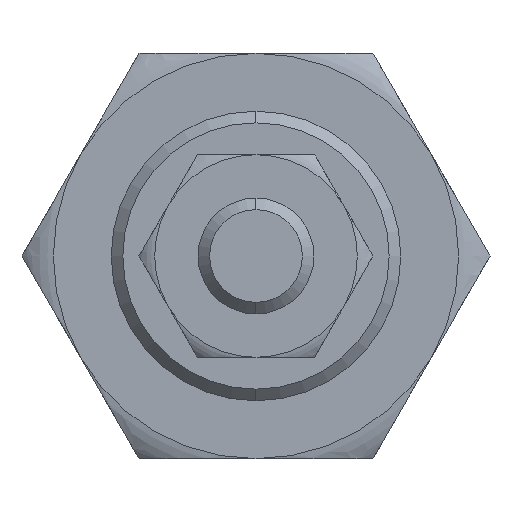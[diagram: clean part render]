
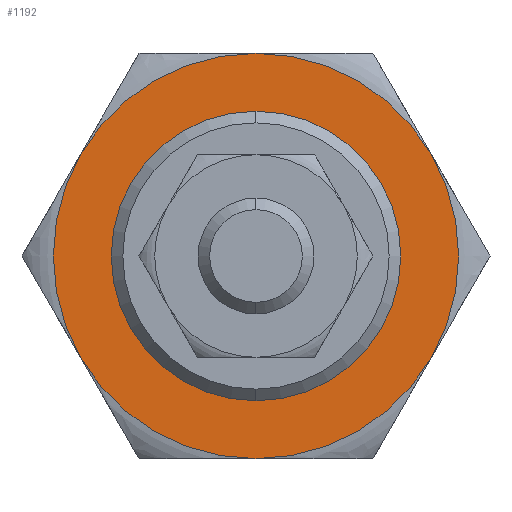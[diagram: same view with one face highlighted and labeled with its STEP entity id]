
A CAD part, left-side view. The second image highlights one B-rep face of the part: STEP entity #1192.
In plain terms, the highlighted planar face has unit normal (-1, 0, 0).
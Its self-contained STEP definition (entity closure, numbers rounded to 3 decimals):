
#92 = CARTESIAN_POINT ( 'NONE',  ( -1.5, 0., 0. ) ) ;
#181 = CARTESIAN_POINT ( 'NONE',  ( -1.5, 0., 7. ) ) ;
#242 = ORIENTED_EDGE ( 'NONE', *, *, #2537, .F. ) ;
#265 = DIRECTION ( 'NONE',  ( 0., 0., -1. ) ) ;
#295 = ORIENTED_EDGE ( 'NONE', *, *, #2417, .F. ) ;
#331 = CIRCLE ( 'NONE', #2294, 7. ) ;
#377 = DIRECTION ( 'NONE',  ( 0., 0., -1. ) ) ;
#445 = DIRECTION ( 'NONE',  ( 0., 0., -1. ) ) ;
#501 = ORIENTED_EDGE ( 'NONE', *, *, #3009, .T. ) ;
#509 = EDGE_CURVE ( 'NONE', #2452, #2609, #1855, .T. ) ;
#517 = AXIS2_PLACEMENT_3D ( 'NONE', #2402, #2061, #265 ) ;
#639 = FACE_BOUND ( 'NONE', #2998, .T. ) ;
#649 = CARTESIAN_POINT ( 'NONE',  ( -1.5, -6.062, 3.5 ) ) ;
#725 = CARTESIAN_POINT ( 'NONE',  ( -1.5, 0., -4.5 ) ) ;
#760 = ORIENTED_EDGE ( 'NONE', *, *, #2145, .T. ) ;
#811 = DIRECTION ( 'NONE',  ( 1., 0., 0. ) ) ;
#826 = VERTEX_POINT ( 'NONE', #725 ) ;
#852 = PLANE ( 'NONE',  #2925 ) ;
#989 = CIRCLE ( 'NONE', #1261, 7. ) ;
#998 = CIRCLE ( 'NONE', #1882, 4.5 ) ;
#1044 = DIRECTION ( 'NONE',  ( 1., 0., 0. ) ) ;
#1082 = CARTESIAN_POINT ( 'NONE',  ( -1.5, 0., 0. ) ) ;
#1087 = DIRECTION ( 'NONE',  ( 0., 0., -1. ) ) ;
#1149 = EDGE_CURVE ( 'NONE', #2609, #2374, #331, .T. ) ;
#1192 = ADVANCED_FACE ( 'NONE', ( #639, #2146 ), #852, .F. ) ;
#1199 = ORIENTED_EDGE ( 'NONE', *, *, #509, .F. ) ;
#1230 = CIRCLE ( 'NONE', #1585, 7. ) ;
#1234 = CARTESIAN_POINT ( 'NONE',  ( -1.5, 0., 0. ) ) ;
#1251 = VERTEX_POINT ( 'NONE', #1998 ) ;
#1261 = AXIS2_PLACEMENT_3D ( 'NONE', #2614, #1886, #1320 ) ;
#1285 = DIRECTION ( 'NONE',  ( 0., 0., -1. ) ) ;
#1307 = CIRCLE ( 'NONE', #1798, 7. ) ;
#1320 = DIRECTION ( 'NONE',  ( 0., 0., 1. ) ) ;
#1433 = DIRECTION ( 'NONE',  ( 1., 0., 0. ) ) ;
#1499 = CARTESIAN_POINT ( 'NONE',  ( -1.5, 0., -7. ) ) ;
#1513 = VERTEX_POINT ( 'NONE', #1623 ) ;
#1573 = AXIS2_PLACEMENT_3D ( 'NONE', #1763, #811, #445 ) ;
#1585 = AXIS2_PLACEMENT_3D ( 'NONE', #1082, #1433, #1285 ) ;
#1595 = CIRCLE ( 'NONE', #2249, 4.5 ) ;
#1623 = CARTESIAN_POINT ( 'NONE',  ( -1.5, 0., 4.5 ) ) ;
#1624 = DIRECTION ( 'NONE',  ( 1., 0., 0. ) ) ;
#1643 = CARTESIAN_POINT ( 'NONE',  ( -1.5, 0., 0. ) ) ;
#1709 = CIRCLE ( 'NONE', #1573, 7. ) ;
#1743 = DIRECTION ( 'NONE',  ( 1., 0., 0. ) ) ;
#1758 = EDGE_CURVE ( 'NONE', #2733, #1251, #1230, .T. ) ;
#1763 = CARTESIAN_POINT ( 'NONE',  ( -1.5, 0., 0. ) ) ;
#1783 = DIRECTION ( 'NONE',  ( 0., 0., -1. ) ) ;
#1798 = AXIS2_PLACEMENT_3D ( 'NONE', #1643, #1865, #2016 ) ;
#1805 = EDGE_CURVE ( 'NONE', #1513, #826, #998, .T. ) ;
#1855 = CIRCLE ( 'NONE', #517, 7. ) ;
#1865 = DIRECTION ( 'NONE',  ( 1., 0., 0. ) ) ;
#1882 = AXIS2_PLACEMENT_3D ( 'NONE', #1234, #1624, #1087 ) ;
#1886 = DIRECTION ( 'NONE',  ( -1., 0., 0. ) ) ;
#1921 = CARTESIAN_POINT ( 'NONE',  ( -1.5, 0., 0. ) ) ;
#1972 = ORIENTED_EDGE ( 'NONE', *, *, #1149, .F. ) ;
#1998 = CARTESIAN_POINT ( 'NONE',  ( -1.5, 6.062, 3.5 ) ) ;
#2016 = DIRECTION ( 'NONE',  ( 0., 0., -1. ) ) ;
#2061 = DIRECTION ( 'NONE',  ( 1., 0., 0. ) ) ;
#2145 = EDGE_CURVE ( 'NONE', #2739, #1251, #989, .T. ) ;
#2146 = FACE_OUTER_BOUND ( 'NONE', #3031, .T. ) ;
#2249 = AXIS2_PLACEMENT_3D ( 'NONE', #1921, #1743, #1783 ) ;
#2294 = AXIS2_PLACEMENT_3D ( 'NONE', #92, #1044, #377 ) ;
#2308 = ORIENTED_EDGE ( 'NONE', *, *, #1805, .T. ) ;
#2374 = VERTEX_POINT ( 'NONE', #1499 ) ;
#2402 = CARTESIAN_POINT ( 'NONE',  ( -1.5, 0., 0. ) ) ;
#2417 = EDGE_CURVE ( 'NONE', #2739, #2452, #1709, .T. ) ;
#2452 = VERTEX_POINT ( 'NONE', #649 ) ;
#2495 = DIRECTION ( 'NONE',  ( 0., 0., -1. ) ) ;
#2531 = CARTESIAN_POINT ( 'NONE',  ( -1.5, 6.062, -3.5 ) ) ;
#2537 = EDGE_CURVE ( 'NONE', #2374, #2733, #1307, .T. ) ;
#2546 = DIRECTION ( 'NONE',  ( 1., 0., 0. ) ) ;
#2609 = VERTEX_POINT ( 'NONE', #2908 ) ;
#2614 = CARTESIAN_POINT ( 'NONE',  ( -1.5, 0., 0. ) ) ;
#2720 = CARTESIAN_POINT ( 'NONE',  ( -1.5, 0., 0. ) ) ;
#2733 = VERTEX_POINT ( 'NONE', #2531 ) ;
#2739 = VERTEX_POINT ( 'NONE', #181 ) ;
#2908 = CARTESIAN_POINT ( 'NONE',  ( -1.5, -6.062, -3.5 ) ) ;
#2910 = ORIENTED_EDGE ( 'NONE', *, *, #1758, .F. ) ;
#2925 = AXIS2_PLACEMENT_3D ( 'NONE', #2720, #2546, #2495 ) ;
#2998 = EDGE_LOOP ( 'NONE', ( #501, #2308 ) ) ;
#3009 = EDGE_CURVE ( 'NONE', #826, #1513, #1595, .T. ) ;
#3031 = EDGE_LOOP ( 'NONE', ( #242, #1972, #1199, #295, #760, #2910 ) ) ;
